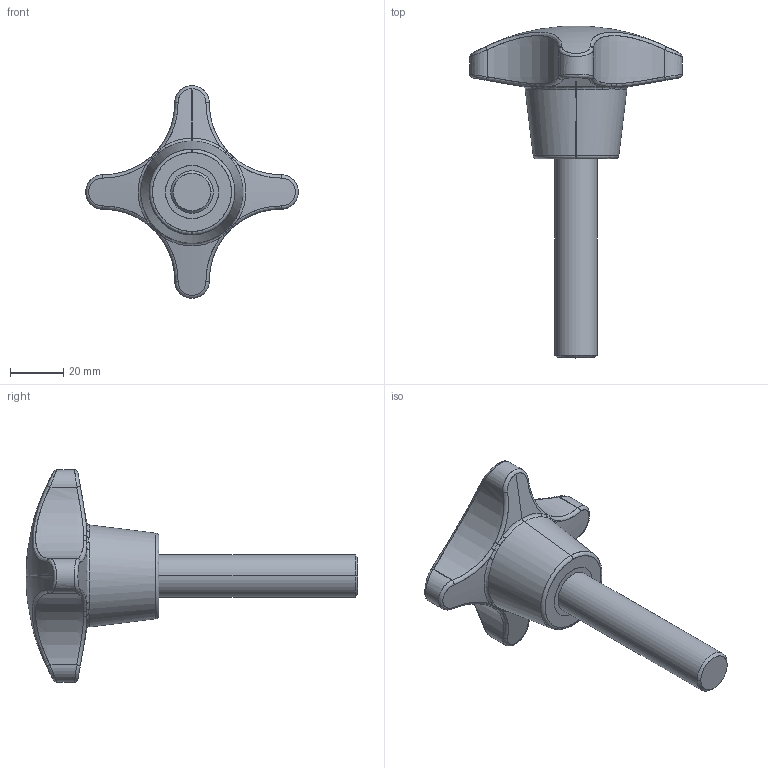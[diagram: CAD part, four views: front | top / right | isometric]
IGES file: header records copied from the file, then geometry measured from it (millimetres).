
Start section: SolidWorks IGES file using analytic representation for surfaces
Global section: file name: C:\Users\Marc\Documents\2 ENGINYERIA\Catalogo 3D\IGS STEP DXF\1121 80 502.IGS; native system: SolidWorks 2010; preprocessor: SolidWorks 2010; author: Marc; date: 101126.171431; units: millimetre
Bounding box: 80 x 125 x 80 mm (x, y, z)
Surface area: 16794.8 mm2 (no closed solid volume)
Topology: 0 solids, 0 shells, 87 faces, 1145 edges, 1144 vertices
Faces by surface type: bspline 53, revolution 34
